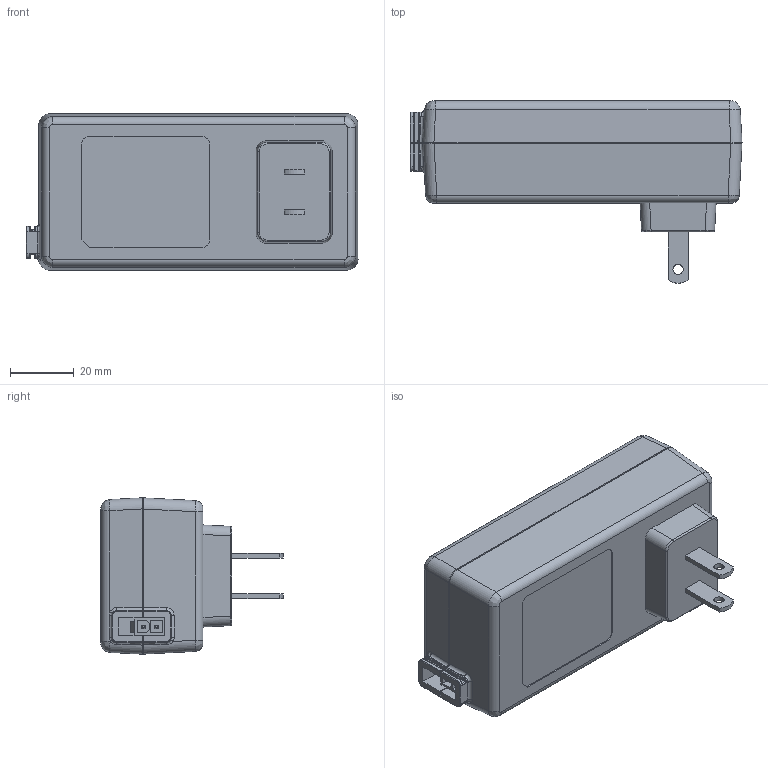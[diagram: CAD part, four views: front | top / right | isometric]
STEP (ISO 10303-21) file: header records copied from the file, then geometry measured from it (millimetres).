
FILE_DESCRIPTION((''),'2;1');
FILE_NAME('SMPS002_DOD','2016-04-14T',('bs'),(''),'CREO PARAMETRIC BY PTC INC, 2015080','CREO PARAMETRIC BY PTC INC, 2015080','');
FILE_SCHEMA(('CONFIG_CONTROL_DESIGN'));
Length unit declared in the file: millimetre
Products named in the file (1): SMPS002_DOD
Bounding box: 104 x 57.12 x 49 mm (x, y, z)
Volume: 157607.6 mm3; surface area: 21024.7 mm2
Topology: 1 solids, 1 shells, 486 faces, 1299 edges, 843 vertices
Faces by surface type: plane 285, cylinder 82, extrusion 77, bspline 30, torus 12
Entity records: 18377 total; most frequent: CARTESIAN_POINT 6723, ORIENTED_EDGE 2592, DIRECTION 1971, EDGE_CURVE 1296, VECTOR 965, LINE 888, VERTEX_POINT 843, EDGE_LOOP 525
